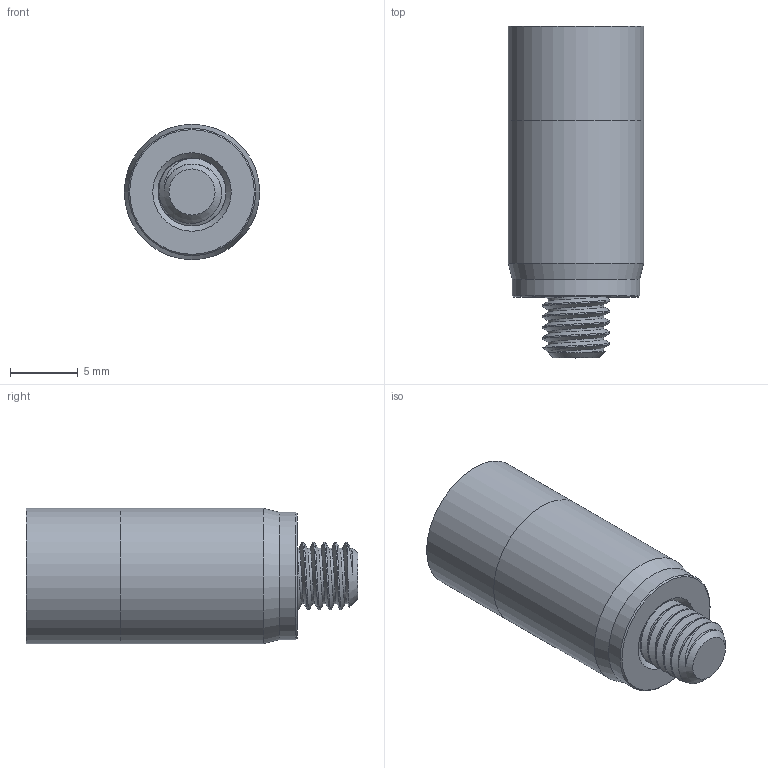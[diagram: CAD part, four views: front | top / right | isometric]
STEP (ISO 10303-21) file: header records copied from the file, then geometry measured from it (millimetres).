
FILE_DESCRIPTION (( 'STEP AP214' ), '1' );
FILE_NAME ('DAPF-10.STEP', '2018-10-09T18:08:58', ( '' ), ( '' ), 'SwSTEP 2.0', 'SolidWorks 2017', '' );
FILE_SCHEMA (( 'AUTOMOTIVE_DESIGN' ));
Length unit declared in the file: millimetre
Products named in the file (3): DAP-10; Schraube-M5; DAPF-10
Assembly tree (2 placements, depth 2):
  DAPF-10
    DAP-10
    Schraube-M5
Bounding box: 10 x 24.51 x 10 mm (x, y, z)
Volume: 1483.6 mm3; surface area: 1338.5 mm2
Topology: 3 solids, 3 shells, 103 faces, 263 edges, 175 vertices
Faces by surface type: plane 53, cylinder 39, bspline 6, cone 5
Full cylindrical faces by diameter (mm): 4.2 x4, 4.6 x1, 9.4 x1, 10 x2
Entity records: 6386 total; most frequent: CARTESIAN_POINT 4018, ORIENTED_EDGE 470, DIRECTION 357, EDGE_CURVE 235, VERTEX_POINT 161, LINE 129, VECTOR 129, EDGE_LOOP 120
